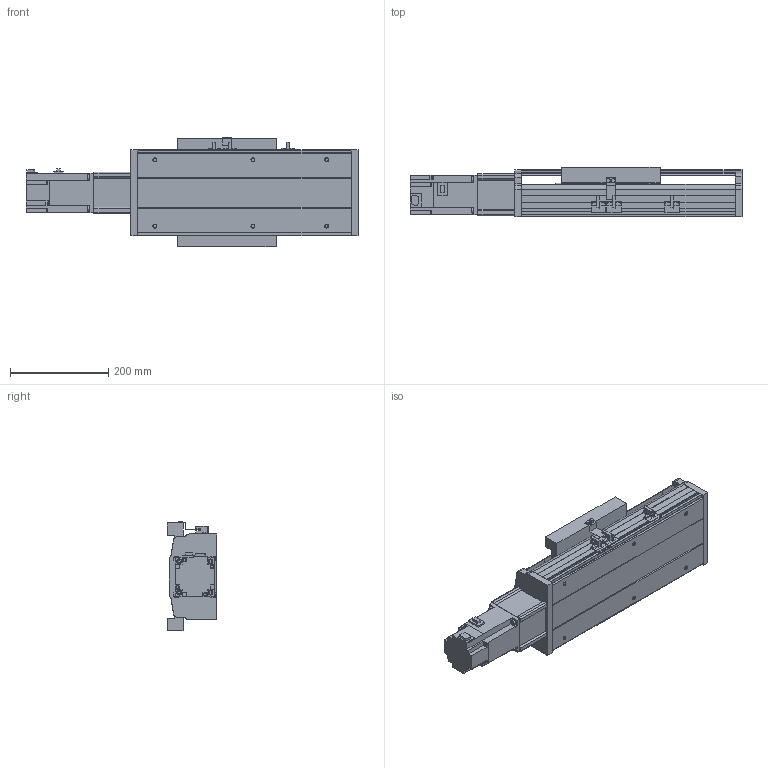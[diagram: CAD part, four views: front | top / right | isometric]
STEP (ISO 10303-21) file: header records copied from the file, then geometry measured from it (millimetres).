
FILE_DESCRIPTION(/* description */ ('STEP AP214'),/* implementation_level */ '2;1');
FILE_NAME(/* name */ 'PSS200-L10-S100-BC-T75-C1-N(0)',/* time_stamp */ '2022-06-06T04:33:36+02:00',/* author */ ('License CC BY-ND 4.0'),/* organization */ ('CADENAS'),/* preprocessor_version */ 'ST-DEVELOPER v18.102',/* originating_system */ 'PARTsolutions',/* authorisation */ ' ');
FILE_SCHEMA (('AUTOMOTIVE_DESIGN {1 0 10303 214 3 1 1}'));
Length unit declared in the file: millimetre
Products named in the file (8): PSS200-L10-S100-BC-T75-C1-N(0); PSS200-S100-BC-N_S; T75-p1; PSS200BC-N_h; PSS200-N_sensor; PSS200-BC-C1-N_sl; PSS200-N_Q; PSS200-S100-BC-C1-N_body
Assembly tree (9 placements, depth 2):
  PSS200-L10-S100-BC-T75-C1-N(0)
    PSS200-S100-BC-N_S
    T75-p1
    PSS200BC-N_h
    PSS200-N_sensor  x3
    PSS200-BC-C1-N_sl
    PSS200-N_Q
    PSS200-S100-BC-C1-N_body
Bounding box: 676.3 x 101.5 x 223.86 mm (x, y, z)
Volume: 4589314.6 mm3; surface area: 967560.2 mm2
Topology: 9 solids, 9 shells, 565 faces, 1507 edges, 1000 vertices
Faces by surface type: plane 439, cylinder 112, cone 14
Full cylindrical faces by diameter (mm): 4 x2, 4.5 x4, 6 x11, 6.647 x10, 8 x8, 10 x6, 25 x1, 67 x1, 70 x1
Entity records: 15734 total; most frequent: CARTESIAN_POINT 2732, ORIENTED_EDGE 2594, DIRECTION 2581, EDGE_CURVE 1297, LINE 1051, VECTOR 1051, VERTEX_POINT 896, AXIS2_PLACEMENT_3D 765
